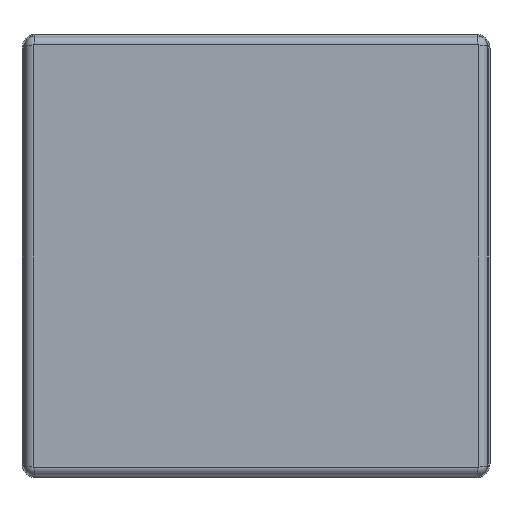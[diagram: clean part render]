
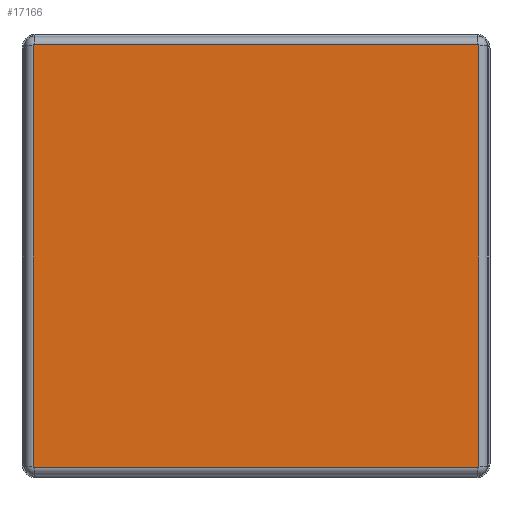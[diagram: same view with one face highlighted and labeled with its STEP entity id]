
A CAD part, front view. The second image highlights one B-rep face of the part: STEP entity #17166.
In plain terms, the highlighted planar face has unit normal (0, -1, 0).
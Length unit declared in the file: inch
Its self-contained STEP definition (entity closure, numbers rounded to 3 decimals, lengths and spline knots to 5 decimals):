
#231 = EDGE_CURVE ( 'NONE', #28309, #28685, #6224, .T. ) ;
#995 = EDGE_CURVE ( 'NONE', #28685, #11392, #11012, .T. ) ;
#1259 = CARTESIAN_POINT ( 'NONE',  ( -3.267, -0.079, 3.1085 ) ) ;
#1971 = VECTOR ( 'NONE', #29329, 39.37008 ) ;
#3121 = CARTESIAN_POINT ( 'NONE',  ( -3.267, -0.079, 3.1085 ) ) ;
#3299 = DIRECTION ( 'NONE',  ( 0., -1., 0. ) ) ;
#4195 = CARTESIAN_POINT ( 'NONE',  ( -3.277, -0.079, 3.0985 ) ) ;
#4374 = CARTESIAN_POINT ( 'NONE',  ( -3.283, -0.079, -3.1145 ) ) ;
#5192 = DIRECTION ( 'NONE',  ( 0., -1., 0. ) ) ;
#6211 = EDGE_CURVE ( 'NONE', #20735, #30854, #24064, .T. ) ;
#6224 = LINE ( 'NONE', #39291, #1971 ) ;
#7444 = DIRECTION ( 'NONE',  ( 0., -1., 0. ) ) ;
#8384 = ORIENTED_EDGE ( 'NONE', *, *, #16140, .T. ) ;
#8737 = CARTESIAN_POINT ( 'NONE',  ( -3.267, -0.079, -3.0985 ) ) ;
#10036 = VECTOR ( 'NONE', #23222, 39.37008 ) ;
#10387 = DIRECTION ( 'NONE',  ( 0., 0., -1. ) ) ;
#10687 = DIRECTION ( 'NONE',  ( 0., 0., -1. ) ) ;
#11012 = CIRCLE ( 'NONE', #35126, 0.01 ) ;
#11065 = CARTESIAN_POINT ( 'NONE',  ( 3.277, -0.079, -3.0985 ) ) ;
#11392 = VERTEX_POINT ( 'NONE', #24378 ) ;
#11914 = DIRECTION ( 'NONE',  ( 0., 0., -1. ) ) ;
#12751 = DIRECTION ( 'NONE',  ( 0., 0., -1. ) ) ;
#13000 = CIRCLE ( 'NONE', #28163, 0.01 ) ;
#15242 = EDGE_LOOP ( 'NONE', ( #41579, #8384, #31492, #22232, #23323, #18455, #27116, #17501 ) ) ;
#16140 = EDGE_CURVE ( 'NONE', #35336, #18626, #13000, .T. ) ;
#17166 = ADVANCED_FACE ( 'NONE', ( #34226 ), #34008, .T. ) ;
#17501 = ORIENTED_EDGE ( 'NONE', *, *, #6211, .T. ) ;
#18106 = CIRCLE ( 'NONE', #30523, 0.01 ) ;
#18395 = CARTESIAN_POINT ( 'NONE',  ( -3.267, -0.079, 3.0985 ) ) ;
#18455 = ORIENTED_EDGE ( 'NONE', *, *, #995, .T. ) ;
#18626 = VERTEX_POINT ( 'NONE', #33273 ) ;
#18764 = LINE ( 'NONE', #31920, #24911 ) ;
#19248 = EDGE_CURVE ( 'NONE', #11392, #20735, #19355, .T. ) ;
#19355 = LINE ( 'NONE', #3121, #10036 ) ;
#19640 = CARTESIAN_POINT ( 'NONE',  ( 3.267, -0.079, -3.1085 ) ) ;
#20531 = CARTESIAN_POINT ( 'NONE',  ( 3.267, -0.079, 3.0985 ) ) ;
#20735 = VERTEX_POINT ( 'NONE', #1259 ) ;
#22027 = LINE ( 'NONE', #19640, #36138 ) ;
#22030 = CARTESIAN_POINT ( 'NONE',  ( 3.267, -0.079, -3.0985 ) ) ;
#22232 = ORIENTED_EDGE ( 'NONE', *, *, #25510, .T. ) ;
#23222 = DIRECTION ( 'NONE',  ( -1., 0., 0. ) ) ;
#23323 = ORIENTED_EDGE ( 'NONE', *, *, #231, .T. ) ;
#24064 = CIRCLE ( 'NONE', #27493, 0.01 ) ;
#24378 = CARTESIAN_POINT ( 'NONE',  ( 3.267, -0.079, 3.1085 ) ) ;
#24911 = VECTOR ( 'NONE', #28672, 39.37008 ) ;
#25510 = EDGE_CURVE ( 'NONE', #37091, #28309, #18106, .T. ) ;
#25680 = DIRECTION ( 'NONE',  ( 0., -1., 0. ) ) ;
#27116 = ORIENTED_EDGE ( 'NONE', *, *, #19248, .T. ) ;
#27493 = AXIS2_PLACEMENT_3D ( 'NONE', #18395, #5192, #11914 ) ;
#28163 = AXIS2_PLACEMENT_3D ( 'NONE', #8737, #3299, #32929 ) ;
#28309 = VERTEX_POINT ( 'NONE', #11065 ) ;
#28672 = DIRECTION ( 'NONE',  ( 0., 0., -1. ) ) ;
#28685 = VERTEX_POINT ( 'NONE', #29779 ) ;
#28777 = CARTESIAN_POINT ( 'NONE',  ( 3.267, -0.079, -3.1085 ) ) ;
#29329 = DIRECTION ( 'NONE',  ( 0., 0., 1. ) ) ;
#29485 = AXIS2_PLACEMENT_3D ( 'NONE', #4374, #7444, #10687 ) ;
#29779 = CARTESIAN_POINT ( 'NONE',  ( 3.277, -0.079, 3.0985 ) ) ;
#30523 = AXIS2_PLACEMENT_3D ( 'NONE', #22030, #25680, #12751 ) ;
#30854 = VERTEX_POINT ( 'NONE', #4195 ) ;
#31492 = ORIENTED_EDGE ( 'NONE', *, *, #40752, .T. ) ;
#31920 = CARTESIAN_POINT ( 'NONE',  ( -3.277, -0.079, -3.0985 ) ) ;
#32929 = DIRECTION ( 'NONE',  ( 0., 0., -1. ) ) ;
#33273 = CARTESIAN_POINT ( 'NONE',  ( -3.267, -0.079, -3.1085 ) ) ;
#33714 = DIRECTION ( 'NONE',  ( 0., -1., 0. ) ) ;
#34008 = PLANE ( 'NONE',  #29485 ) ;
#34226 = FACE_OUTER_BOUND ( 'NONE', #15242, .T. ) ;
#35126 = AXIS2_PLACEMENT_3D ( 'NONE', #20531, #33714, #10387 ) ;
#35336 = VERTEX_POINT ( 'NONE', #36047 ) ;
#36047 = CARTESIAN_POINT ( 'NONE',  ( -3.277, -0.079, -3.0985 ) ) ;
#36138 = VECTOR ( 'NONE', #42130, 39.37008 ) ;
#37091 = VERTEX_POINT ( 'NONE', #28777 ) ;
#37931 = EDGE_CURVE ( 'NONE', #30854, #35336, #18764, .T. ) ;
#39291 = CARTESIAN_POINT ( 'NONE',  ( 3.277, -0.079, 3.0985 ) ) ;
#40752 = EDGE_CURVE ( 'NONE', #18626, #37091, #22027, .T. ) ;
#41579 = ORIENTED_EDGE ( 'NONE', *, *, #37931, .T. ) ;
#42130 = DIRECTION ( 'NONE',  ( 1., 0., 0. ) ) ;
